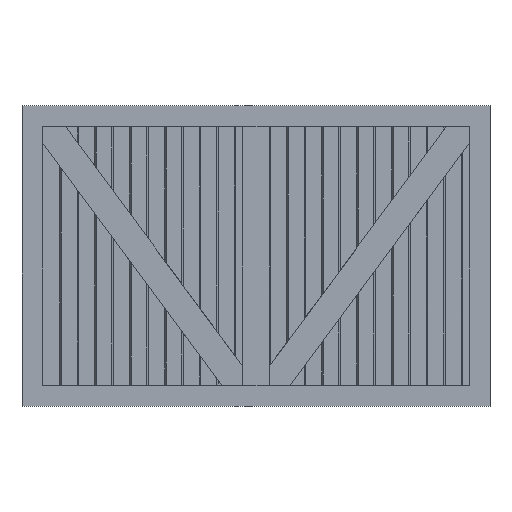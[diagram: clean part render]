
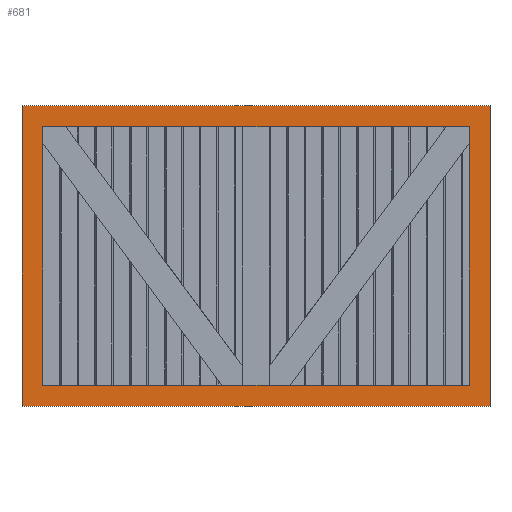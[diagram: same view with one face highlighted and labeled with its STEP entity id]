
A CAD part, top view. The second image highlights one B-rep face of the part: STEP entity #681.
In plain terms, the highlighted planar face has unit normal (0, 0, 1).
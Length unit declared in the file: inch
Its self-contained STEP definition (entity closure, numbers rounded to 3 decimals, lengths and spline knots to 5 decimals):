
#8 = EDGE_CURVE ( 'NONE', #1264, #4710, #2578, .T. ) ;
#13 = VECTOR ( 'NONE', #4137, 39.37008 ) ;
#67 = CARTESIAN_POINT ( 'NONE',  ( -3.8125, -2.3125, 0.4375 ) ) ;
#229 = VECTOR ( 'NONE', #1483, 39.37008 ) ;
#385 = DIRECTION ( 'NONE',  ( 0., -1., 0. ) ) ;
#466 = CARTESIAN_POINT ( 'NONE',  ( -4.1875, 2.6875, 0.4375 ) ) ;
#654 = ORIENTED_EDGE ( 'NONE', *, *, #3891, .T. ) ;
#681 = ADVANCED_FACE ( 'NONE', ( #753, #3620 ), #2487, .F. ) ;
#753 = FACE_BOUND ( 'NONE', #4527, .T. ) ;
#755 = VERTEX_POINT ( 'NONE', #1711 ) ;
#842 = EDGE_CURVE ( 'NONE', #4029, #1264, #3962, .T. ) ;
#959 = ORIENTED_EDGE ( 'NONE', *, *, #2802, .F. ) ;
#979 = CARTESIAN_POINT ( 'NONE',  ( -4.1875, 2.6875, 0.4375 ) ) ;
#1077 = LINE ( 'NONE', #3118, #3439 ) ;
#1103 = DIRECTION ( 'NONE',  ( 1., 0., 0. ) ) ;
#1143 = CARTESIAN_POINT ( 'NONE',  ( 3.8125, -2.3125, 0.4375 ) ) ;
#1247 = VERTEX_POINT ( 'NONE', #979 ) ;
#1264 = VERTEX_POINT ( 'NONE', #2082 ) ;
#1314 = VECTOR ( 'NONE', #1972, 39.37008 ) ;
#1368 = EDGE_LOOP ( 'NONE', ( #2278, #3606, #1465, #654 ) ) ;
#1465 = ORIENTED_EDGE ( 'NONE', *, *, #1497, .T. ) ;
#1483 = DIRECTION ( 'NONE',  ( 0., 1., 0. ) ) ;
#1497 = EDGE_CURVE ( 'NONE', #1247, #755, #1731, .T. ) ;
#1502 = EDGE_CURVE ( 'NONE', #3221, #3025, #1916, .T. ) ;
#1531 = CARTESIAN_POINT ( 'NONE',  ( -4.1875, -2.6875, 0.4375 ) ) ;
#1599 = VECTOR ( 'NONE', #3039, 39.37008 ) ;
#1711 = CARTESIAN_POINT ( 'NONE',  ( -4.1875, -2.6875, 0.4375 ) ) ;
#1714 = CARTESIAN_POINT ( 'NONE',  ( -3.8125, -2.3125, 0.4375 ) ) ;
#1731 = LINE ( 'NONE', #1531, #3383 ) ;
#1747 = DIRECTION ( 'NONE',  ( -1., 0., 0. ) ) ;
#1825 = LINE ( 'NONE', #4151, #13 ) ;
#1916 = LINE ( 'NONE', #3342, #229 ) ;
#1972 = DIRECTION ( 'NONE',  ( -1., 0., 0. ) ) ;
#2039 = VECTOR ( 'NONE', #2537, 39.37008 ) ;
#2082 = CARTESIAN_POINT ( 'NONE',  ( -3.8125, 2.3125, 0.4375 ) ) ;
#2278 = ORIENTED_EDGE ( 'NONE', *, *, #1502, .T. ) ;
#2487 = PLANE ( 'NONE',  #4544 ) ;
#2527 = VECTOR ( 'NONE', #1103, 39.37008 ) ;
#2537 = DIRECTION ( 'NONE',  ( -1., 0., 0. ) ) ;
#2578 = LINE ( 'NONE', #67, #1599 ) ;
#2582 = EDGE_CURVE ( 'NONE', #3801, #4029, #1825, .T. ) ;
#2590 = CARTESIAN_POINT ( 'NONE',  ( 3.8125, 2.3125, 0.4375 ) ) ;
#2802 = EDGE_CURVE ( 'NONE', #4710, #3801, #1077, .T. ) ;
#2837 = CARTESIAN_POINT ( 'NONE',  ( 0., 0., 0.4375 ) ) ;
#3025 = VERTEX_POINT ( 'NONE', #3296 ) ;
#3039 = DIRECTION ( 'NONE',  ( 0., -1., 0. ) ) ;
#3089 = ORIENTED_EDGE ( 'NONE', *, *, #842, .F. ) ;
#3118 = CARTESIAN_POINT ( 'NONE',  ( 3.8125, -2.3125, 0.4375 ) ) ;
#3198 = LINE ( 'NONE', #466, #1314 ) ;
#3221 = VERTEX_POINT ( 'NONE', #4588 ) ;
#3296 = CARTESIAN_POINT ( 'NONE',  ( 4.1875, 2.6875, 0.4375 ) ) ;
#3342 = CARTESIAN_POINT ( 'NONE',  ( 4.1875, -2.6875, 0.4375 ) ) ;
#3383 = VECTOR ( 'NONE', #385, 39.37008 ) ;
#3423 = ORIENTED_EDGE ( 'NONE', *, *, #8, .F. ) ;
#3439 = VECTOR ( 'NONE', #3954, 39.37008 ) ;
#3606 = ORIENTED_EDGE ( 'NONE', *, *, #4347, .T. ) ;
#3620 = FACE_OUTER_BOUND ( 'NONE', #1368, .T. ) ;
#3652 = CARTESIAN_POINT ( 'NONE',  ( -4.1875, -2.6875, 0.4375 ) ) ;
#3801 = VERTEX_POINT ( 'NONE', #1143 ) ;
#3891 = EDGE_CURVE ( 'NONE', #755, #3221, #4345, .T. ) ;
#3954 = DIRECTION ( 'NONE',  ( 1., 0., 0. ) ) ;
#3962 = LINE ( 'NONE', #4346, #2039 ) ;
#4029 = VERTEX_POINT ( 'NONE', #2590 ) ;
#4137 = DIRECTION ( 'NONE',  ( 0., 1., 0. ) ) ;
#4151 = CARTESIAN_POINT ( 'NONE',  ( 3.8125, -2.3125, 0.4375 ) ) ;
#4326 = DIRECTION ( 'NONE',  ( 0., 0., -1. ) ) ;
#4345 = LINE ( 'NONE', #3652, #2527 ) ;
#4346 = CARTESIAN_POINT ( 'NONE',  ( 3.8125, 2.3125, 0.4375 ) ) ;
#4347 = EDGE_CURVE ( 'NONE', #3025, #1247, #3198, .T. ) ;
#4527 = EDGE_LOOP ( 'NONE', ( #959, #3423, #3089, #4728 ) ) ;
#4544 = AXIS2_PLACEMENT_3D ( 'NONE', #2837, #4326, #1747 ) ;
#4588 = CARTESIAN_POINT ( 'NONE',  ( 4.1875, -2.6875, 0.4375 ) ) ;
#4710 = VERTEX_POINT ( 'NONE', #1714 ) ;
#4728 = ORIENTED_EDGE ( 'NONE', *, *, #2582, .F. ) ;
